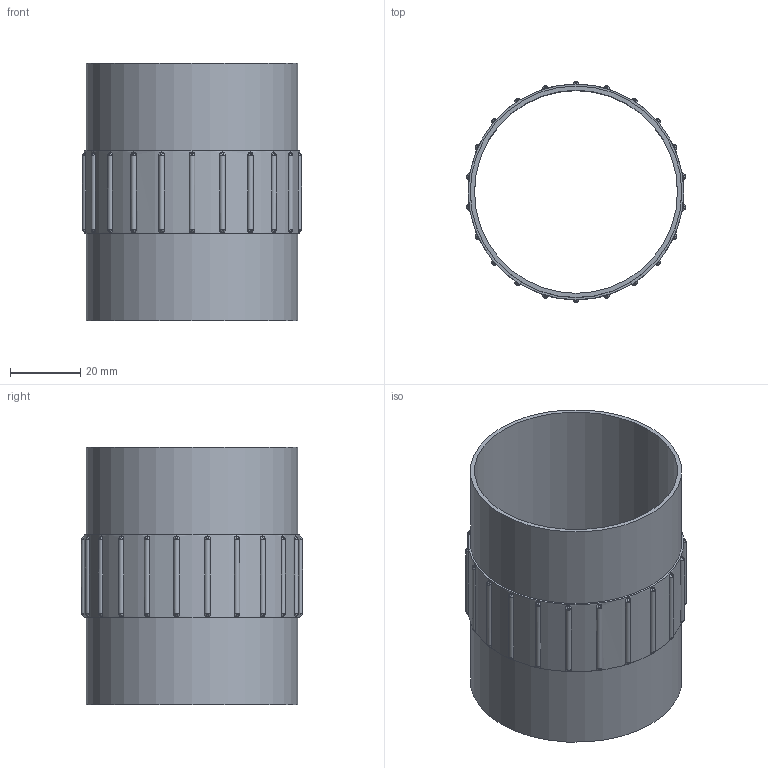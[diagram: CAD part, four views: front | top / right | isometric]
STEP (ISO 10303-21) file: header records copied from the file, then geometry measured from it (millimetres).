
FILE_DESCRIPTION(/* description */ (''),/* implementation_level */ '2;1');
FILE_NAME(/* name */ 'Zwischenring.stp',/* time_stamp */ '2026-03-30T18:53:27+02:00',/* author */ ('rs22sud'),/* organization */ (''),/* preprocessor_version */ 'ST-DEVELOPER v20.1',/* originating_system */ 'Autodesk Inventor 2026',/* authorisation */ '');
FILE_SCHEMA (('AUTOMOTIVE_DESIGN { 1 0 10303 214 3 1 1 }'));
Length unit declared in the file: millimetre
Products named in the file (1): Delta_2_60mm
Bounding box: 62.47 x 63.1 x 73.45 mm (x, y, z)
Volume: 19550.6 mm3; surface area: 28507.8 mm2
Topology: 1 solids, 1 shells, 118 faces, 276 edges, 184 vertices
Faces by surface type: bspline 44, cone 44, cylinder 26, plane 4
Full cylindrical faces by diameter (mm): 57.9 x1, 60.3 x2, 61.5 x1
Entity records: 12666 total; most frequent: CARTESIAN_POINT 10426, ORIENTED_EDGE 552, EDGE_CURVE 276, B_SPLINE_CURVE_WITH_KNOTS 220, DIRECTION 214, VERTEX_POINT 184, EDGE_LOOP 144, FACE_OUTER_BOUND 118
